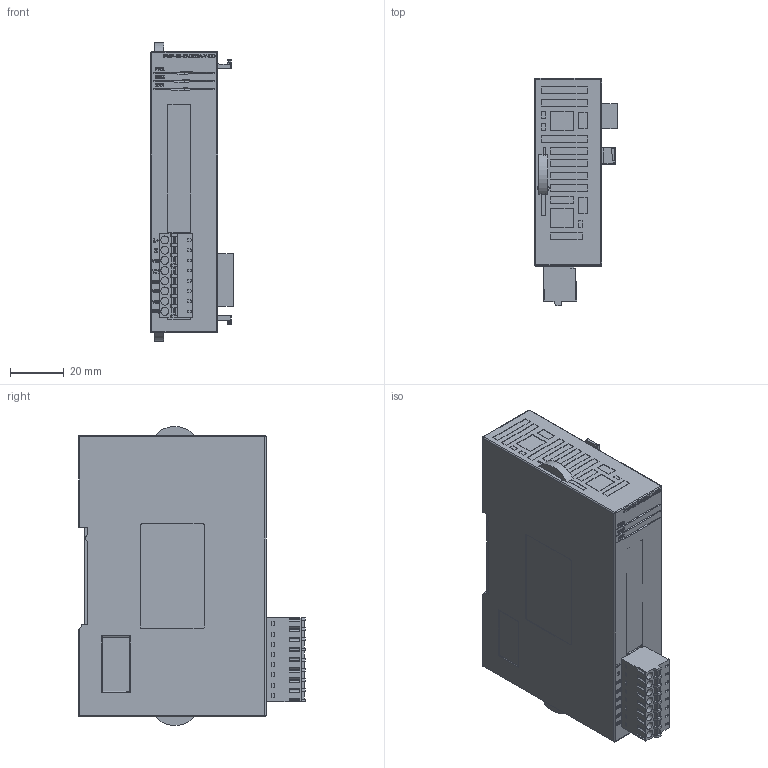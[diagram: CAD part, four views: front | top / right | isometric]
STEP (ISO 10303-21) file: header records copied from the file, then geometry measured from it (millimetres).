
FILE_DESCRIPTION(('STEP AP242'), '1');
FILE_NAME('PMP-01-2AD2DA-V-ED', '', ('UNSPECIFIED'), ('UNSPECIFIED'), 'C3D Converter', 'C3D Toolkit', '');
FILE_SCHEMA(('AP242_MANAGED_MODEL_BASED_3D_ENGINEERING_MIM_LF { 1 0 10303 442 1 1 4 }'));
Length unit declared in the file: millimetre
Products named in the file (1): PMP-01-2AD2DA-V-ED
Bounding box: 30.8 x 84.71 x 111.69 mm (x, y, z)
Surface area: 29156.3 mm2
Topology: 18 solids, 35 shells, 1357 faces, 3632 edges, 2424 vertices
Faces by surface type: plane 972, bspline 161, extrusion 138, cylinder 86
Full cylindrical faces by diameter (mm): 3 x8
Entity records: 76314 total; most frequent: CARTESIAN_POINT 33156, ORIENTED_EDGE 7142, DIRECTION 5267, EDGE_CURVE 3623, VECTOR 2723, LINE 2585, VERTEX_POINT 2424, EDGE_LOOP 1523
